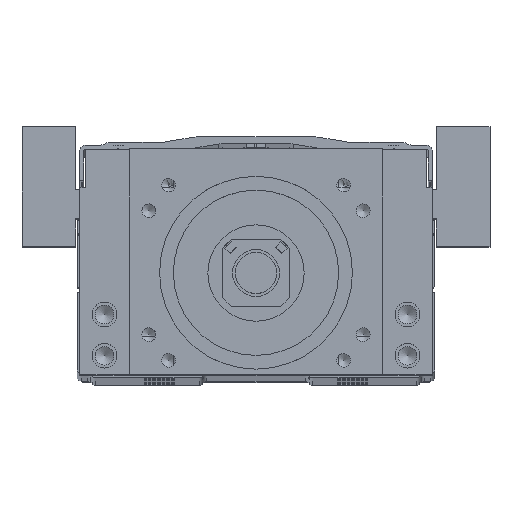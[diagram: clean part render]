
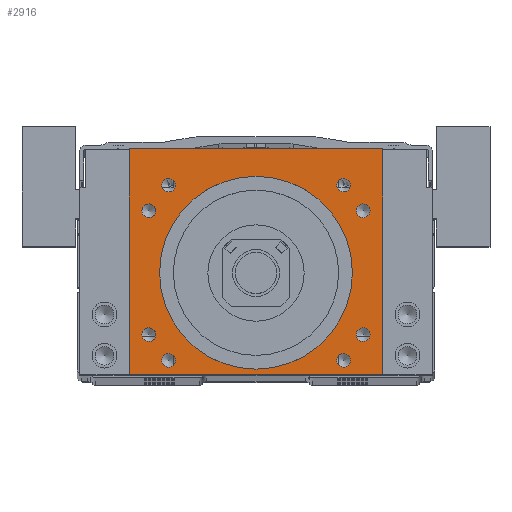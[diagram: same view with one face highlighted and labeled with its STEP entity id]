
A CAD part, top view. The second image highlights one B-rep face of the part: STEP entity #2916.
In plain terms, the highlighted planar face has unit normal (0, 0, 1).
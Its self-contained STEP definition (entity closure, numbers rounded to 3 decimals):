
#2916=ADVANCED_FACE('',(#4560,#4561,#4562,#4563,#4564,#4565,#4566,#4567,
#4568,#4569),#3808,.T.);
#3808=PLANE('',#20322);
#4560=FACE_BOUND('',#5868,.T.);
#4561=FACE_BOUND('',#5869,.T.);
#4562=FACE_BOUND('',#5870,.T.);
#4563=FACE_BOUND('',#5871,.T.);
#4564=FACE_BOUND('',#5872,.T.);
#4565=FACE_BOUND('',#5873,.T.);
#4566=FACE_BOUND('',#5874,.T.);
#4567=FACE_BOUND('',#5875,.T.);
#4568=FACE_BOUND('',#5876,.T.);
#4569=FACE_BOUND('',#5877,.T.);
#5868=EDGE_LOOP('',(#9779,#9780,#9781,#9782));
#5869=EDGE_LOOP('',(#9783));
#5870=EDGE_LOOP('',(#9784));
#5871=EDGE_LOOP('',(#9785));
#5872=EDGE_LOOP('',(#9786));
#5873=EDGE_LOOP('',(#9787));
#5874=EDGE_LOOP('',(#9788));
#5875=EDGE_LOOP('',(#9789));
#5876=EDGE_LOOP('',(#9790));
#5877=EDGE_LOOP('',(#9791));
#7074=CIRCLE('',#20269,2.5);
#7077=CIRCLE('',#20274,2.5);
#7079=CIRCLE('',#20278,2.5);
#7080=CIRCLE('',#20280,2.5);
#7091=CIRCLE('',#20307,2.5);
#7093=CIRCLE('',#20311,2.5);
#7095=CIRCLE('',#20315,2.5);
#7097=CIRCLE('',#20319,2.5);
#7098=CIRCLE('',#20321,35.015);
#9779=ORIENTED_EDGE('',*,*,#15385,.T.);
#9780=ORIENTED_EDGE('',*,*,#14224,.T.);
#9781=ORIENTED_EDGE('',*,*,#15386,.T.);
#9782=ORIENTED_EDGE('',*,*,#15387,.T.);
#9783=ORIENTED_EDGE('',*,*,#15382,.F.);
#9784=ORIENTED_EDGE('',*,*,#15380,.T.);
#9785=ORIENTED_EDGE('',*,*,#15378,.T.);
#9786=ORIENTED_EDGE('',*,*,#15384,.F.);
#9787=ORIENTED_EDGE('',*,*,#15388,.F.);
#9788=ORIENTED_EDGE('',*,*,#15336,.T.);
#9789=ORIENTED_EDGE('',*,*,#15335,.T.);
#9790=ORIENTED_EDGE('',*,*,#15333,.T.);
#9791=ORIENTED_EDGE('',*,*,#15330,.T.);
#12415=VERTEX_POINT('',#26622);
#12416=VERTEX_POINT('',#26624);
#13220=VERTEX_POINT('',#30587);
#13224=VERTEX_POINT('',#30596);
#13227=VERTEX_POINT('',#30603);
#13228=VERTEX_POINT('',#30606);
#13260=VERTEX_POINT('',#30696);
#13263=VERTEX_POINT('',#30703);
#13266=VERTEX_POINT('',#30710);
#13269=VERTEX_POINT('',#30717);
#13270=VERTEX_POINT('',#30720);
#13271=VERTEX_POINT('',#30722);
#13272=VERTEX_POINT('',#30725);
#14224=EDGE_CURVE('',#12416,#12415,#16639,.T.);
#15330=EDGE_CURVE('',#13220,#13220,#7074,.T.);
#15333=EDGE_CURVE('',#13224,#13224,#7077,.T.);
#15335=EDGE_CURVE('',#13227,#13227,#7079,.T.);
#15336=EDGE_CURVE('',#13228,#13228,#7080,.T.);
#15378=EDGE_CURVE('',#13260,#13260,#7091,.T.);
#15380=EDGE_CURVE('',#13263,#13263,#7093,.T.);
#15382=EDGE_CURVE('',#13266,#13266,#7095,.T.);
#15384=EDGE_CURVE('',#13269,#13269,#7097,.T.);
#15385=EDGE_CURVE('',#13270,#12416,#17297,.T.);
#15386=EDGE_CURVE('',#12415,#13271,#17298,.T.);
#15387=EDGE_CURVE('',#13271,#13270,#17299,.T.);
#15388=EDGE_CURVE('',#13272,#13272,#7098,.T.);
#16639=LINE('',#26623,#18098);
#17297=LINE('',#30719,#18789);
#17298=LINE('',#30721,#18790);
#17299=LINE('',#30723,#18791);
#18098=VECTOR('',#21442,1.);
#18789=VECTOR('',#23631,1.);
#18790=VECTOR('',#23632,1.);
#18791=VECTOR('',#23633,1.);
#20269=AXIS2_PLACEMENT_3D('',#30586,#23496,#23497);
#20274=AXIS2_PLACEMENT_3D('',#30595,#23506,#23507);
#20278=AXIS2_PLACEMENT_3D('',#30602,#23514,#23515);
#20280=AXIS2_PLACEMENT_3D('',#30605,#23518,#23519);
#20307=AXIS2_PLACEMENT_3D('',#30695,#23603,#23604);
#20311=AXIS2_PLACEMENT_3D('',#30702,#23611,#23612);
#20315=AXIS2_PLACEMENT_3D('',#30709,#23619,#23620);
#20319=AXIS2_PLACEMENT_3D('',#30716,#23627,#23628);
#20321=AXIS2_PLACEMENT_3D('',#30724,#23634,#23635);
#20322=AXIS2_PLACEMENT_3D('',#30726,#23636,#23637);
#21442=DIRECTION('',(-1.,0.,0.));
#23496=DIRECTION('',(0.,0.,-1.));
#23497=DIRECTION('',(1.,0.,0.));
#23506=DIRECTION('',(0.,0.,-1.));
#23507=DIRECTION('',(1.,0.,0.));
#23514=DIRECTION('',(0.,0.,-1.));
#23515=DIRECTION('',(1.,0.,0.));
#23518=DIRECTION('',(0.,0.,-1.));
#23519=DIRECTION('',(1.,0.,0.));
#23603=DIRECTION('',(0.,0.,-1.));
#23604=DIRECTION('',(1.,0.,0.));
#23611=DIRECTION('',(0.,0.,-1.));
#23612=DIRECTION('',(1.,0.,0.));
#23619=DIRECTION('',(0.,0.,1.));
#23620=DIRECTION('',(-1.,0.,0.));
#23627=DIRECTION('',(0.,0.,1.));
#23628=DIRECTION('',(-1.,0.,0.));
#23631=DIRECTION('',(0.,1.,0.));
#23632=DIRECTION('',(0.,-1.,0.));
#23633=DIRECTION('',(1.,0.,0.));
#23634=DIRECTION('',(0.,0.,1.));
#23635=DIRECTION('',(1.,0.,0.));
#23636=DIRECTION('',(0.,0.,1.));
#23637=DIRECTION('',(-1.,0.,0.));
#26622=CARTESIAN_POINT('',(-46.,83.,100.));
#26623=CARTESIAN_POINT('',(0.,83.,100.));
#26624=CARTESIAN_POINT('',(46.,83.,100.));
#30586=CARTESIAN_POINT('',(31.82,69.82,100.));
#30587=CARTESIAN_POINT('',(34.32,69.82,100.));
#30595=CARTESIAN_POINT('',(31.82,6.18,100.));
#30596=CARTESIAN_POINT('',(34.32,6.18,100.));
#30602=CARTESIAN_POINT('',(-31.82,6.18,100.));
#30603=CARTESIAN_POINT('',(-29.32,6.18,100.));
#30605=CARTESIAN_POINT('',(-31.82,69.82,100.));
#30606=CARTESIAN_POINT('',(-29.32,69.82,100.));
#30695=CARTESIAN_POINT('',(38.971,15.5,100.));
#30696=CARTESIAN_POINT('',(41.471,15.5,100.));
#30702=CARTESIAN_POINT('',(38.971,60.5,100.));
#30703=CARTESIAN_POINT('',(41.471,60.5,100.));
#30709=CARTESIAN_POINT('',(-38.971,15.5,100.));
#30710=CARTESIAN_POINT('',(-41.471,15.5,100.));
#30716=CARTESIAN_POINT('',(-38.971,60.5,100.));
#30717=CARTESIAN_POINT('',(-41.471,60.5,100.));
#30719=CARTESIAN_POINT('',(46.,38.,100.));
#30720=CARTESIAN_POINT('',(46.,1.,100.));
#30721=CARTESIAN_POINT('',(-46.,38.,100.));
#30722=CARTESIAN_POINT('',(-46.,1.,100.));
#30723=CARTESIAN_POINT('',(0.,1.,100.));
#30724=CARTESIAN_POINT('',(0.,38.,100.));
#30725=CARTESIAN_POINT('',(35.015,38.,100.));
#30726=CARTESIAN_POINT('',(0.,38.,100.));
